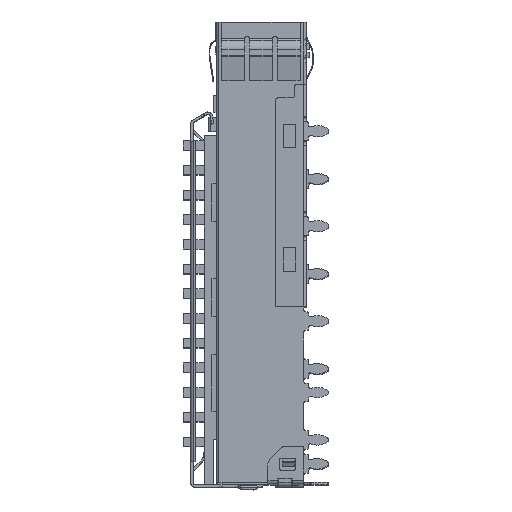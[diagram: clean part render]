
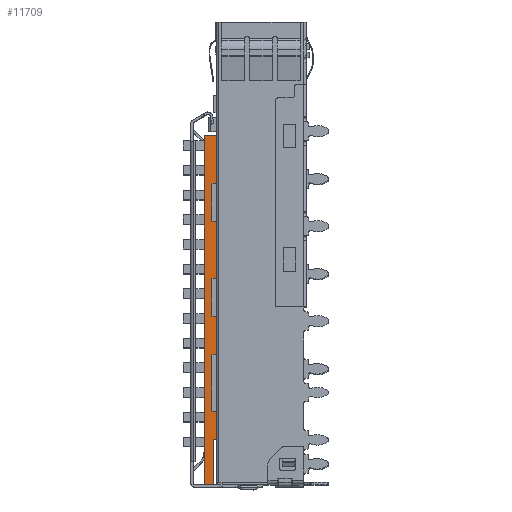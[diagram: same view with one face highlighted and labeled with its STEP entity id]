
A CAD part, top view. The second image highlights one B-rep face of the part: STEP entity #11709.
In plain terms, the highlighted planar face has unit normal (0, 0, 1) as drawn and (0, 0, -1) by its records, which use the part's own axes.
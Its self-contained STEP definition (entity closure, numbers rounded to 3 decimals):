
#39 = ORIENTED_EDGE ( 'NONE', *, *, #40925, .T. ) ;
#1418 = CARTESIAN_POINT ( 'NONE',  ( -48.342, 17.605, -28.5 ) ) ;
#1470 = CARTESIAN_POINT ( 'NONE',  ( -47.992, 39.555, -28.5 ) ) ;
#2851 = CARTESIAN_POINT ( 'NONE',  ( -47.042, -0.045, -28.5 ) ) ;
#2876 = DIRECTION ( 'NONE',  ( 0., 1., 0. ) ) ;
#3475 = CARTESIAN_POINT ( 'NONE',  ( -48.342, 21.605, -28.5 ) ) ;
#4413 = CARTESIAN_POINT ( 'NONE',  ( -48.342, 21.605, -28.5 ) ) ;
#4799 = EDGE_CURVE ( 'NONE', #33793, #36032, #33400, .T. ) ;
#5482 = ORIENTED_EDGE ( 'NONE', *, *, #10381, .T. ) ;
#6772 = LINE ( 'NONE', #48000, #75952 ) ;
#7276 = VECTOR ( 'NONE', #18433, 1000. ) ;
#7388 = EDGE_CURVE ( 'NONE', #34753, #27343, #63512, .T. ) ;
#7684 = CARTESIAN_POINT ( 'NONE',  ( -47.042, 36.605, -28.5 ) ) ;
#8671 = DIRECTION ( 'NONE',  ( -1., 0., 0. ) ) ;
#10381 = EDGE_CURVE ( 'NONE', #27343, #53551, #48589, .T. ) ;
#10518 = EDGE_CURVE ( 'NONE', #53551, #70210, #60883, .T. ) ;
#11709 = ADVANCED_FACE ( 'NONE', ( #35212 ), #38704, .T. ) ;
#12779 = VECTOR ( 'NONE', #38693, 1000. ) ;
#12812 = LINE ( 'NONE', #61958, #30212 ) ;
#12901 = CARTESIAN_POINT ( 'NONE',  ( -48.342, 31.605, -28.5 ) ) ;
#13061 = VECTOR ( 'NONE', #83601, 1000. ) ;
#13795 = CARTESIAN_POINT ( 'NONE',  ( -48.342, 7.605, -28.5 ) ) ;
#15122 = EDGE_CURVE ( 'NONE', #70210, #31953, #75700, .T. ) ;
#15486 = CARTESIAN_POINT ( 'NONE',  ( -48.342, 39.555, -28.5 ) ) ;
#16427 = VECTOR ( 'NONE', #38765, 1000. ) ;
#16511 = DIRECTION ( 'NONE',  ( 1., 0., 0. ) ) ;
#18215 = CARTESIAN_POINT ( 'NONE',  ( -47.842, 13.605, -28.5 ) ) ;
#18388 = DIRECTION ( 'NONE',  ( 0., -1., 0. ) ) ;
#18433 = DIRECTION ( 'NONE',  ( 0., 1., 0. ) ) ;
#18485 = ORIENTED_EDGE ( 'NONE', *, *, #82214, .T. ) ;
#18701 = CARTESIAN_POINT ( 'NONE',  ( -47.842, 39.555, -28.5 ) ) ;
#19211 = VERTEX_POINT ( 'NONE', #59954 ) ;
#19511 = VECTOR ( 'NONE', #48258, 1000. ) ;
#20060 = CARTESIAN_POINT ( 'NONE',  ( -47.042, 39.555, -28.5 ) ) ;
#21177 = CARTESIAN_POINT ( 'NONE',  ( -47.992, 4.655, -28.5 ) ) ;
#22202 = LINE ( 'NONE', #30701, #71909 ) ;
#23303 = VERTEX_POINT ( 'NONE', #1418 ) ;
#23866 = CARTESIAN_POINT ( 'NONE',  ( -48.342, 17.605, -28.5 ) ) ;
#24668 = LINE ( 'NONE', #18701, #7276 ) ;
#25456 = VECTOR ( 'NONE', #37134, 1000. ) ;
#25999 = LINE ( 'NONE', #23866, #58487 ) ;
#26239 = EDGE_CURVE ( 'NONE', #73574, #34753, #31330, .T. ) ;
#26399 = CARTESIAN_POINT ( 'NONE',  ( -48.342, 36.605, -28.5 ) ) ;
#26665 = ORIENTED_EDGE ( 'NONE', *, *, #59303, .T. ) ;
#27343 = VERTEX_POINT ( 'NONE', #7684 ) ;
#27424 = VECTOR ( 'NONE', #64861, 1000. ) ;
#30212 = VECTOR ( 'NONE', #16511, 1000. ) ;
#30701 = CARTESIAN_POINT ( 'NONE',  ( -48.342, 39.555, -28.5 ) ) ;
#31151 = EDGE_CURVE ( 'NONE', #36032, #59384, #64871, .T. ) ;
#31330 = LINE ( 'NONE', #64992, #59697 ) ;
#31864 = CARTESIAN_POINT ( 'NONE',  ( -47.992, -0.045, -28.5 ) ) ;
#31953 = VERTEX_POINT ( 'NONE', #47649 ) ;
#33400 = LINE ( 'NONE', #45782, #65165 ) ;
#33793 = VERTEX_POINT ( 'NONE', #73139 ) ;
#34753 = VERTEX_POINT ( 'NONE', #26399 ) ;
#35212 = FACE_OUTER_BOUND ( 'NONE', #37907, .T. ) ;
#36032 = VERTEX_POINT ( 'NONE', #18215 ) ;
#37134 = DIRECTION ( 'NONE',  ( -1., 0., 0. ) ) ;
#37907 = EDGE_LOOP ( 'NONE', ( #45941, #39, #47731, #63505, #61873, #26665, #68013, #38740, #40107, #5482, #82778, #56815, #81757, #43926, #18485, #53673, #46018, #66768 ) ) ;
#38262 = DIRECTION ( 'NONE',  ( -1., 0., 0. ) ) ;
#38601 = DIRECTION ( 'NONE',  ( 0., 0., -1. ) ) ;
#38693 = DIRECTION ( 'NONE',  ( 0., 1., 0. ) ) ;
#38704 = PLANE ( 'NONE',  #48713 ) ;
#38740 = ORIENTED_EDGE ( 'NONE', *, *, #26239, .T. ) ;
#38765 = DIRECTION ( 'NONE',  ( 1., 0., 0. ) ) ;
#39676 = DIRECTION ( 'NONE',  ( 0., 1., 0. ) ) ;
#40107 = ORIENTED_EDGE ( 'NONE', *, *, #7388, .T. ) ;
#40170 = CARTESIAN_POINT ( 'NONE',  ( -48.342, 39.555, -28.5 ) ) ;
#40638 = CARTESIAN_POINT ( 'NONE',  ( -47.042, 39.555, -28.5 ) ) ;
#40925 = EDGE_CURVE ( 'NONE', #74756, #59755, #24668, .T. ) ;
#42455 = CARTESIAN_POINT ( 'NONE',  ( -47.042, 36.605, -28.5 ) ) ;
#42890 = CARTESIAN_POINT ( 'NONE',  ( -48.342, 27.605, -28.5 ) ) ;
#43926 = ORIENTED_EDGE ( 'NONE', *, *, #46429, .T. ) ;
#45782 = CARTESIAN_POINT ( 'NONE',  ( -47.842, 39.555, -28.5 ) ) ;
#45941 = ORIENTED_EDGE ( 'NONE', *, *, #70065, .T. ) ;
#46018 = ORIENTED_EDGE ( 'NONE', *, *, #31151, .T. ) ;
#46429 = EDGE_CURVE ( 'NONE', #54134, #68938, #22202, .T. ) ;
#46772 = LINE ( 'NONE', #12901, #27424 ) ;
#47049 = CARTESIAN_POINT ( 'NONE',  ( -47.842, 21.605, -28.5 ) ) ;
#47649 = CARTESIAN_POINT ( 'NONE',  ( -47.992, 4.655, -28.5 ) ) ;
#47731 = ORIENTED_EDGE ( 'NONE', *, *, #75582, .T. ) ;
#47767 = VECTOR ( 'NONE', #18388, 1000. ) ;
#47917 = EDGE_CURVE ( 'NONE', #62644, #52948, #62581, .T. ) ;
#48000 = CARTESIAN_POINT ( 'NONE',  ( -47.842, 39.555, -28.5 ) ) ;
#48258 = DIRECTION ( 'NONE',  ( 0., 1., 0. ) ) ;
#48589 = LINE ( 'NONE', #20060, #47767 ) ;
#48713 = AXIS2_PLACEMENT_3D ( 'NONE', #40638, #38601, #38262 ) ;
#51271 = EDGE_CURVE ( 'NONE', #59384, #23303, #71270, .T. ) ;
#51423 = CARTESIAN_POINT ( 'NONE',  ( -48.342, 7.605, -28.5 ) ) ;
#51627 = EDGE_CURVE ( 'NONE', #31953, #54134, #81474, .T. ) ;
#52948 = VERTEX_POINT ( 'NONE', #42890 ) ;
#53551 = VERTEX_POINT ( 'NONE', #74738 ) ;
#53673 = ORIENTED_EDGE ( 'NONE', *, *, #4799, .T. ) ;
#54134 = VERTEX_POINT ( 'NONE', #69171 ) ;
#54440 = DIRECTION ( 'NONE',  ( 0., 1., 0. ) ) ;
#54860 = DIRECTION ( 'NONE',  ( 0., 1., 0. ) ) ;
#55553 = CARTESIAN_POINT ( 'NONE',  ( -48.342, 13.605, -28.5 ) ) ;
#56237 = DIRECTION ( 'NONE',  ( 1., 0., 0. ) ) ;
#56815 = ORIENTED_EDGE ( 'NONE', *, *, #15122, .T. ) ;
#57789 = CARTESIAN_POINT ( 'NONE',  ( -47.842, 27.605, -28.5 ) ) ;
#58487 = VECTOR ( 'NONE', #56237, 1000. ) ;
#59303 = EDGE_CURVE ( 'NONE', #61280, #19211, #6772, .T. ) ;
#59384 = VERTEX_POINT ( 'NONE', #55553 ) ;
#59697 = VECTOR ( 'NONE', #65084, 1000. ) ;
#59755 = VERTEX_POINT ( 'NONE', #47049 ) ;
#59954 = CARTESIAN_POINT ( 'NONE',  ( -47.842, 31.605, -28.5 ) ) ;
#60883 = LINE ( 'NONE', #2851, #62751 ) ;
#61280 = VERTEX_POINT ( 'NONE', #57789 ) ;
#61873 = ORIENTED_EDGE ( 'NONE', *, *, #69580, .T. ) ;
#61958 = CARTESIAN_POINT ( 'NONE',  ( -48.342, 27.605, -28.5 ) ) ;
#62092 = VECTOR ( 'NONE', #66925, 1000. ) ;
#62581 = LINE ( 'NONE', #40170, #12779 ) ;
#62644 = VERTEX_POINT ( 'NONE', #3475 ) ;
#62751 = VECTOR ( 'NONE', #8671, 1000. ) ;
#63505 = ORIENTED_EDGE ( 'NONE', *, *, #47917, .T. ) ;
#63512 = LINE ( 'NONE', #42455, #62092 ) ;
#64145 = VECTOR ( 'NONE', #79667, 1000. ) ;
#64861 = DIRECTION ( 'NONE',  ( -1., 0., 0. ) ) ;
#64871 = LINE ( 'NONE', #84070, #13061 ) ;
#64992 = CARTESIAN_POINT ( 'NONE',  ( -48.342, 39.555, -28.5 ) ) ;
#65084 = DIRECTION ( 'NONE',  ( 0., 1., 0. ) ) ;
#65165 = VECTOR ( 'NONE', #54860, 1000. ) ;
#65968 = CARTESIAN_POINT ( 'NONE',  ( -47.842, 17.605, -28.5 ) ) ;
#66768 = ORIENTED_EDGE ( 'NONE', *, *, #51271, .T. ) ;
#66925 = DIRECTION ( 'NONE',  ( 1., 0., 0. ) ) ;
#68013 = ORIENTED_EDGE ( 'NONE', *, *, #83811, .T. ) ;
#68185 = LINE ( 'NONE', #51423, #16427 ) ;
#68938 = VERTEX_POINT ( 'NONE', #13795 ) ;
#69171 = CARTESIAN_POINT ( 'NONE',  ( -48.342, 4.655, -28.5 ) ) ;
#69580 = EDGE_CURVE ( 'NONE', #52948, #61280, #12812, .T. ) ;
#70065 = EDGE_CURVE ( 'NONE', #23303, #74756, #25999, .T. ) ;
#70210 = VERTEX_POINT ( 'NONE', #31864 ) ;
#71270 = LINE ( 'NONE', #15486, #19511 ) ;
#71909 = VECTOR ( 'NONE', #39676, 1000. ) ;
#73139 = CARTESIAN_POINT ( 'NONE',  ( -47.842, 7.605, -28.5 ) ) ;
#73574 = VERTEX_POINT ( 'NONE', #79322 ) ;
#74738 = CARTESIAN_POINT ( 'NONE',  ( -47.042, -0.045, -28.5 ) ) ;
#74756 = VERTEX_POINT ( 'NONE', #65968 ) ;
#75185 = LINE ( 'NONE', #4413, #25456 ) ;
#75582 = EDGE_CURVE ( 'NONE', #59755, #62644, #75185, .T. ) ;
#75700 = LINE ( 'NONE', #1470, #76249 ) ;
#75952 = VECTOR ( 'NONE', #54440, 1000. ) ;
#76249 = VECTOR ( 'NONE', #2876, 1000. ) ;
#79322 = CARTESIAN_POINT ( 'NONE',  ( -48.342, 31.605, -28.5 ) ) ;
#79667 = DIRECTION ( 'NONE',  ( -1., 0., 0. ) ) ;
#81474 = LINE ( 'NONE', #21177, #64145 ) ;
#81757 = ORIENTED_EDGE ( 'NONE', *, *, #51627, .T. ) ;
#82214 = EDGE_CURVE ( 'NONE', #68938, #33793, #68185, .T. ) ;
#82778 = ORIENTED_EDGE ( 'NONE', *, *, #10518, .T. ) ;
#83601 = DIRECTION ( 'NONE',  ( -1., 0., 0. ) ) ;
#83811 = EDGE_CURVE ( 'NONE', #19211, #73574, #46772, .T. ) ;
#84070 = CARTESIAN_POINT ( 'NONE',  ( -48.342, 13.605, -28.5 ) ) ;
